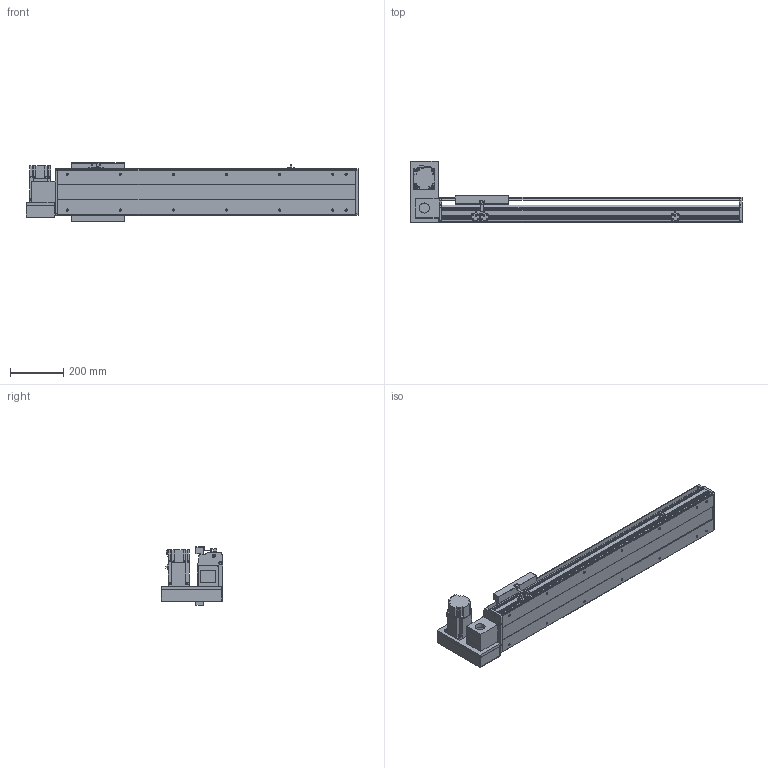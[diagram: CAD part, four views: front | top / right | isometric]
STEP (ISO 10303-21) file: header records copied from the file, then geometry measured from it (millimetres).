
FILE_DESCRIPTION(/* description */ ('STEP AP214'),/* implementation_level */ '2;1');
FILE_NAME(/* name */ 'PBS200-P40-S750-LU-T75-C1-N(0)',/* time_stamp */ '2022-06-11T08:59:22+02:00',/* author */ ('License CC BY-ND 4.0'),/* organization */ ('CADENAS'),/* preprocessor_version */ 'ST-DEVELOPER v18.102',/* originating_system */ 'PARTsolutions',/* authorisation */ ' ');
FILE_SCHEMA (('AUTOMOTIVE_DESIGN {1 0 10303 214 3 1 1}'));
Length unit declared in the file: millimetre
Products named in the file (7): PBS200-P40-S750-LU-T75-C1-N(0); PBS200_sensor; PBS200_plant; PBS200_sliser; T75-p1; PBS200T-LU_motors; PBS200-S750()_body
Assembly tree (8 placements, depth 2):
  PBS200-P40-S750-LU-T75-C1-N(0)
    PBS200_sensor  x3
    PBS200_plant
    PBS200_sliser
    T75-p1
    PBS200T-LU_motors
    PBS200-S750()_body
Bounding box: 1250 x 231 x 221 mm (x, y, z)
Volume: 9675769.5 mm3; surface area: 1573653.4 mm2
Topology: 8 solids, 8 shells, 914 faces, 2364 edges, 1542 vertices
Faces by surface type: plane 572, cylinder 296, cone 46
Full cylindrical faces by diameter (mm): 2.459 x6, 3.242 x4, 4.5 x6, 4.917 x4, 5 x6, 6 x7, 6.6 x8, 6.647 x18, 8 x6, 10 x4, 12 x8, 38 x2, 40 x1, 70 x1
Entity records: 24461 total; most frequent: DIRECTION 4303, CARTESIAN_POINT 4174, ORIENTED_EDGE 3970, EDGE_CURVE 1985, AXIS2_PLACEMENT_3D 1495, VERTEX_POINT 1366, LINE 1313, VECTOR 1313
